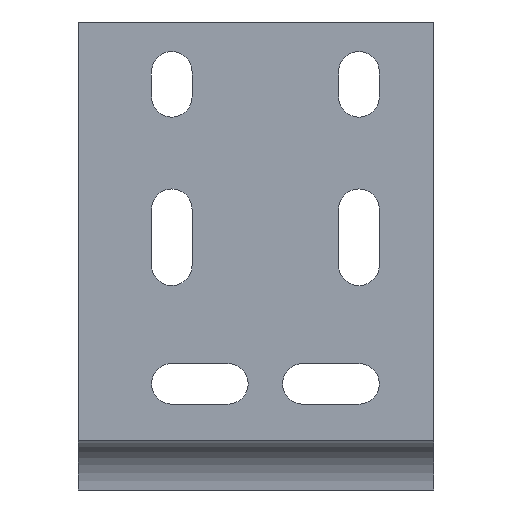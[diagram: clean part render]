
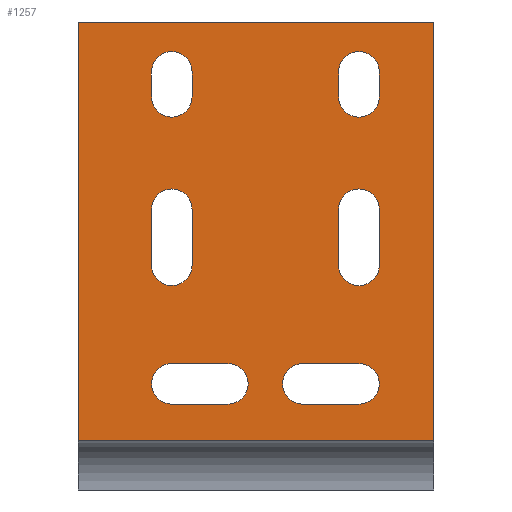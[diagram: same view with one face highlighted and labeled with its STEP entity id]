
A CAD part, front view. The second image highlights one B-rep face of the part: STEP entity #1257.
In plain terms, the highlighted planar face has unit normal (0, -1, 0).
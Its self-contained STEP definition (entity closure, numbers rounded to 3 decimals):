
#81=CIRCLE('',#1350,3.25);
#82=CIRCLE('',#1354,3.25);
#83=CIRCLE('',#1358,3.25);
#84=CIRCLE('',#1362,3.25);
#85=CIRCLE('',#1365,3.25);
#86=CIRCLE('',#1368,3.25);
#87=CIRCLE('',#1371,3.25);
#88=CIRCLE('',#1374,3.25);
#89=CIRCLE('',#1376,3.25);
#90=CIRCLE('',#1377,3.25);
#91=CIRCLE('',#1378,3.25);
#92=CIRCLE('',#1379,3.25);
#369=ORIENTED_EDGE('',*,*,#603,.T.);
#370=ORIENTED_EDGE('',*,*,#597,.T.);
#371=ORIENTED_EDGE('',*,*,#620,.T.);
#372=ORIENTED_EDGE('',*,*,#600,.T.);
#373=ORIENTED_EDGE('',*,*,#596,.T.);
#374=ORIENTED_EDGE('',*,*,#590,.T.);
#375=ORIENTED_EDGE('',*,*,#621,.T.);
#376=ORIENTED_EDGE('',*,*,#593,.T.);
#377=ORIENTED_EDGE('',*,*,#465,.F.);
#378=ORIENTED_EDGE('',*,*,#473,.T.);
#379=ORIENTED_EDGE('',*,*,#455,.T.);
#380=ORIENTED_EDGE('',*,*,#472,.F.);
#381=ORIENTED_EDGE('',*,*,#589,.T.);
#382=ORIENTED_EDGE('',*,*,#583,.T.);
#383=ORIENTED_EDGE('',*,*,#622,.T.);
#384=ORIENTED_EDGE('',*,*,#586,.T.);
#385=ORIENTED_EDGE('',*,*,#582,.T.);
#386=ORIENTED_EDGE('',*,*,#576,.T.);
#387=ORIENTED_EDGE('',*,*,#623,.T.);
#388=ORIENTED_EDGE('',*,*,#579,.T.);
#389=ORIENTED_EDGE('',*,*,#619,.T.);
#390=ORIENTED_EDGE('',*,*,#612,.T.);
#391=ORIENTED_EDGE('',*,*,#615,.T.);
#392=ORIENTED_EDGE('',*,*,#617,.T.);
#393=ORIENTED_EDGE('',*,*,#611,.T.);
#394=ORIENTED_EDGE('',*,*,#604,.T.);
#395=ORIENTED_EDGE('',*,*,#607,.T.);
#396=ORIENTED_EDGE('',*,*,#609,.T.);
#455=EDGE_CURVE('',#632,#633,#750,.T.);
#465=EDGE_CURVE('',#642,#643,#759,.T.);
#472=EDGE_CURVE('',#643,#633,#765,.T.);
#473=EDGE_CURVE('',#642,#632,#766,.T.);
#576=EDGE_CURVE('',#720,#721,#835,.T.);
#579=EDGE_CURVE('',#722,#723,#838,.T.);
#582=EDGE_CURVE('',#723,#720,#81,.T.);
#583=EDGE_CURVE('',#724,#725,#841,.T.);
#586=EDGE_CURVE('',#726,#727,#844,.T.);
#589=EDGE_CURVE('',#727,#724,#82,.T.);
#590=EDGE_CURVE('',#728,#729,#847,.T.);
#593=EDGE_CURVE('',#730,#731,#850,.T.);
#596=EDGE_CURVE('',#731,#728,#83,.T.);
#597=EDGE_CURVE('',#732,#733,#853,.T.);
#600=EDGE_CURVE('',#734,#735,#856,.T.);
#603=EDGE_CURVE('',#735,#732,#84,.T.);
#604=EDGE_CURVE('',#736,#737,#859,.T.);
#607=EDGE_CURVE('',#737,#738,#85,.T.);
#609=EDGE_CURVE('',#738,#739,#863,.T.);
#611=EDGE_CURVE('',#739,#736,#86,.T.);
#612=EDGE_CURVE('',#740,#741,#865,.T.);
#615=EDGE_CURVE('',#741,#742,#87,.T.);
#617=EDGE_CURVE('',#742,#743,#869,.T.);
#619=EDGE_CURVE('',#743,#740,#88,.T.);
#620=EDGE_CURVE('',#733,#734,#89,.T.);
#621=EDGE_CURVE('',#729,#730,#90,.T.);
#622=EDGE_CURVE('',#725,#726,#91,.T.);
#623=EDGE_CURVE('',#721,#722,#92,.T.);
#632=VERTEX_POINT('',#1757);
#633=VERTEX_POINT('',#1758);
#642=VERTEX_POINT('',#1777);
#643=VERTEX_POINT('',#1779);
#720=VERTEX_POINT('',#1997);
#721=VERTEX_POINT('',#1998);
#722=VERTEX_POINT('',#2003);
#723=VERTEX_POINT('',#2004);
#724=VERTEX_POINT('',#2011);
#725=VERTEX_POINT('',#2012);
#726=VERTEX_POINT('',#2017);
#727=VERTEX_POINT('',#2018);
#728=VERTEX_POINT('',#2025);
#729=VERTEX_POINT('',#2026);
#730=VERTEX_POINT('',#2031);
#731=VERTEX_POINT('',#2032);
#732=VERTEX_POINT('',#2039);
#733=VERTEX_POINT('',#2040);
#734=VERTEX_POINT('',#2045);
#735=VERTEX_POINT('',#2046);
#736=VERTEX_POINT('',#2053);
#737=VERTEX_POINT('',#2054);
#738=VERTEX_POINT('',#2059);
#739=VERTEX_POINT('',#2063);
#740=VERTEX_POINT('',#2069);
#741=VERTEX_POINT('',#2070);
#742=VERTEX_POINT('',#2075);
#743=VERTEX_POINT('',#2079);
#750=LINE('',#1756,#877);
#759=LINE('',#1778,#886);
#765=LINE('',#1791,#892);
#766=LINE('',#1793,#893);
#835=LINE('',#1996,#962);
#838=LINE('',#2002,#965);
#841=LINE('',#2010,#968);
#844=LINE('',#2016,#971);
#847=LINE('',#2024,#974);
#850=LINE('',#2030,#977);
#853=LINE('',#2038,#980);
#856=LINE('',#2044,#983);
#859=LINE('',#2052,#986);
#863=LINE('',#2062,#990);
#865=LINE('',#2068,#992);
#869=LINE('',#2078,#996);
#877=VECTOR('',#1403,1000.);
#886=VECTOR('',#1416,1000.);
#892=VECTOR('',#1426,1000.);
#893=VECTOR('',#1429,1000.);
#962=VECTOR('',#1622,1000.);
#965=VECTOR('',#1627,1000.);
#968=VECTOR('',#1636,1000.);
#971=VECTOR('',#1641,1000.);
#974=VECTOR('',#1650,1000.);
#977=VECTOR('',#1655,1000.);
#980=VECTOR('',#1664,1000.);
#983=VECTOR('',#1669,1000.);
#986=VECTOR('',#1678,1000.);
#990=VECTOR('',#1688,1000.);
#992=VECTOR('',#1696,1000.);
#996=VECTOR('',#1706,1000.);
#1063=EDGE_LOOP('',(#369,#370,#371,#372));
#1064=EDGE_LOOP('',(#373,#374,#375,#376));
#1065=EDGE_LOOP('',(#377,#378,#379,#380));
#1066=EDGE_LOOP('',(#381,#382,#383,#384));
#1067=EDGE_LOOP('',(#385,#386,#387,#388));
#1068=EDGE_LOOP('',(#389,#390,#391,#392));
#1069=EDGE_LOOP('',(#393,#394,#395,#396));
#1148=FACE_BOUND('',#1063,.T.);
#1149=FACE_BOUND('',#1064,.T.);
#1150=FACE_BOUND('',#1065,.T.);
#1151=FACE_BOUND('',#1066,.T.);
#1152=FACE_BOUND('',#1067,.T.);
#1153=FACE_BOUND('',#1068,.T.);
#1154=FACE_BOUND('',#1069,.T.);
#1202=PLANE('',#1375);
#1257=ADVANCED_FACE('',(#1148,#1149,#1150,#1151,#1152,#1153,#1154),#1202,
 .T.);
#1350=AXIS2_PLACEMENT_3D('',#2008,#1632,#1633);
#1354=AXIS2_PLACEMENT_3D('',#2022,#1646,#1647);
#1358=AXIS2_PLACEMENT_3D('',#2036,#1660,#1661);
#1362=AXIS2_PLACEMENT_3D('',#2050,#1674,#1675);
#1365=AXIS2_PLACEMENT_3D('',#2058,#1683,#1684);
#1368=AXIS2_PLACEMENT_3D('',#2066,#1692,#1693);
#1371=AXIS2_PLACEMENT_3D('',#2074,#1701,#1702);
#1374=AXIS2_PLACEMENT_3D('',#2082,#1710,#1711);
#1375=AXIS2_PLACEMENT_3D('',#2083,#1712,#1713);
#1376=AXIS2_PLACEMENT_3D('',#2084,#1714,#1715);
#1377=AXIS2_PLACEMENT_3D('',#2085,#1716,#1717);
#1378=AXIS2_PLACEMENT_3D('',#2086,#1718,#1719);
#1379=AXIS2_PLACEMENT_3D('',#2087,#1720,#1721);
#1403=DIRECTION('',(0.,0.,-1.));
#1416=DIRECTION('',(0.,0.,-1.));
#1426=DIRECTION('',(-1.,0.,0.));
#1429=DIRECTION('',(-1.,0.,0.));
#1622=DIRECTION('',(0.,0.,1.));
#1627=DIRECTION('',(0.,0.,-1.));
#1632=DIRECTION('',(0.,1.,0.));
#1633=DIRECTION('',(0.,0.,-1.));
#1636=DIRECTION('',(0.,0.,1.));
#1641=DIRECTION('',(0.,0.,-1.));
#1646=DIRECTION('',(0.,1.,0.));
#1647=DIRECTION('',(0.,0.,-1.));
#1650=DIRECTION('',(0.,0.,1.));
#1655=DIRECTION('',(0.,0.,-1.));
#1660=DIRECTION('',(0.,1.,0.));
#1661=DIRECTION('',(0.,0.,-1.));
#1664=DIRECTION('',(0.,0.,1.));
#1669=DIRECTION('',(0.,0.,-1.));
#1674=DIRECTION('',(0.,1.,0.));
#1675=DIRECTION('',(0.,0.,-1.));
#1678=DIRECTION('',(1.,0.,0.));
#1683=DIRECTION('',(0.,1.,0.));
#1684=DIRECTION('',(0.,0.,-1.));
#1688=DIRECTION('',(-1.,0.,0.));
#1692=DIRECTION('',(0.,1.,0.));
#1693=DIRECTION('',(0.,0.,-1.));
#1696=DIRECTION('',(1.,0.,0.));
#1701=DIRECTION('',(0.,1.,0.));
#1702=DIRECTION('',(0.,0.,-1.));
#1706=DIRECTION('',(-1.,0.,0.));
#1710=DIRECTION('',(0.,1.,0.));
#1711=DIRECTION('',(0.,0.,-1.));
#1712=DIRECTION('',(0.,-1.,0.));
#1713=DIRECTION('',(0.,0.,-1.));
#1714=DIRECTION('',(0.,1.,0.));
#1715=DIRECTION('',(0.,0.,-1.));
#1716=DIRECTION('',(0.,1.,0.));
#1717=DIRECTION('',(0.,0.,-1.));
#1718=DIRECTION('',(0.,1.,0.));
#1719=DIRECTION('',(0.,0.,-1.));
#1720=DIRECTION('',(0.,1.,0.));
#1721=DIRECTION('',(0.,0.,-1.));
#1756=CARTESIAN_POINT('',(-28.5,0.,8.));
#1757=CARTESIAN_POINT('',(-28.5,0.,75.));
#1758=CARTESIAN_POINT('',(-28.5,0.,8.));
#1777=CARTESIAN_POINT('',(28.5,0.,75.));
#1778=CARTESIAN_POINT('',(28.5,0.,8.));
#1779=CARTESIAN_POINT('',(28.5,0.,8.));
#1791=CARTESIAN_POINT('',(28.5,0.,8.));
#1793=CARTESIAN_POINT('',(28.5,0.,75.));
#1996=CARTESIAN_POINT('',(13.25,0.,63.));
#1997=CARTESIAN_POINT('',(13.25,0.,63.));
#1998=CARTESIAN_POINT('',(13.25,0.,67.));
#2002=CARTESIAN_POINT('',(19.75,0.,63.));
#2003=CARTESIAN_POINT('',(19.75,0.,67.));
#2004=CARTESIAN_POINT('',(19.75,0.,63.));
#2008=CARTESIAN_POINT('',(16.5,0.,63.));
#2010=CARTESIAN_POINT('',(13.25,0.,0.));
#2011=CARTESIAN_POINT('',(13.25,0.,36.));
#2012=CARTESIAN_POINT('',(13.25,0.,45.));
#2016=CARTESIAN_POINT('',(19.75,0.,0.));
#2017=CARTESIAN_POINT('',(19.75,0.,45.));
#2018=CARTESIAN_POINT('',(19.75,0.,36.));
#2022=CARTESIAN_POINT('',(16.5,0.,36.));
#2024=CARTESIAN_POINT('',(-16.75,0.,0.));
#2025=CARTESIAN_POINT('',(-16.75,0.,63.));
#2026=CARTESIAN_POINT('',(-16.75,0.,67.));
#2030=CARTESIAN_POINT('',(-10.25,0.,0.));
#2031=CARTESIAN_POINT('',(-10.25,0.,67.));
#2032=CARTESIAN_POINT('',(-10.25,0.,63.));
#2036=CARTESIAN_POINT('',(-13.5,0.,63.));
#2038=CARTESIAN_POINT('',(-16.75,0.,0.));
#2039=CARTESIAN_POINT('',(-16.75,0.,36.));
#2040=CARTESIAN_POINT('',(-16.75,0.,45.));
#2044=CARTESIAN_POINT('',(-10.25,0.,0.));
#2045=CARTESIAN_POINT('',(-10.25,0.,45.));
#2046=CARTESIAN_POINT('',(-10.25,0.,36.));
#2050=CARTESIAN_POINT('',(-13.5,0.,36.));
#2052=CARTESIAN_POINT('',(0.,0.,20.25));
#2053=CARTESIAN_POINT('',(7.5,0.,20.25));
#2054=CARTESIAN_POINT('',(16.5,0.,20.25));
#2058=CARTESIAN_POINT('',(16.5,0.,17.));
#2059=CARTESIAN_POINT('',(16.5,0.,13.75));
#2062=CARTESIAN_POINT('',(0.,0.,13.75));
#2063=CARTESIAN_POINT('',(7.5,0.,13.75));
#2066=CARTESIAN_POINT('',(7.5,0.,17.));
#2068=CARTESIAN_POINT('',(0.,0.,20.25));
#2069=CARTESIAN_POINT('',(-13.5,0.,20.25));
#2070=CARTESIAN_POINT('',(-4.5,0.,20.25));
#2074=CARTESIAN_POINT('',(-4.5,0.,17.));
#2075=CARTESIAN_POINT('',(-4.5,0.,13.75));
#2078=CARTESIAN_POINT('',(0.,0.,13.75));
#2079=CARTESIAN_POINT('',(-13.5,0.,13.75));
#2082=CARTESIAN_POINT('',(-13.5,0.,17.));
#2083=CARTESIAN_POINT('',(0.,0.,0.));
#2084=CARTESIAN_POINT('',(-13.5,0.,45.));
#2085=CARTESIAN_POINT('',(-13.5,0.,67.));
#2086=CARTESIAN_POINT('',(16.5,0.,45.));
#2087=CARTESIAN_POINT('',(16.5,0.,67.));
